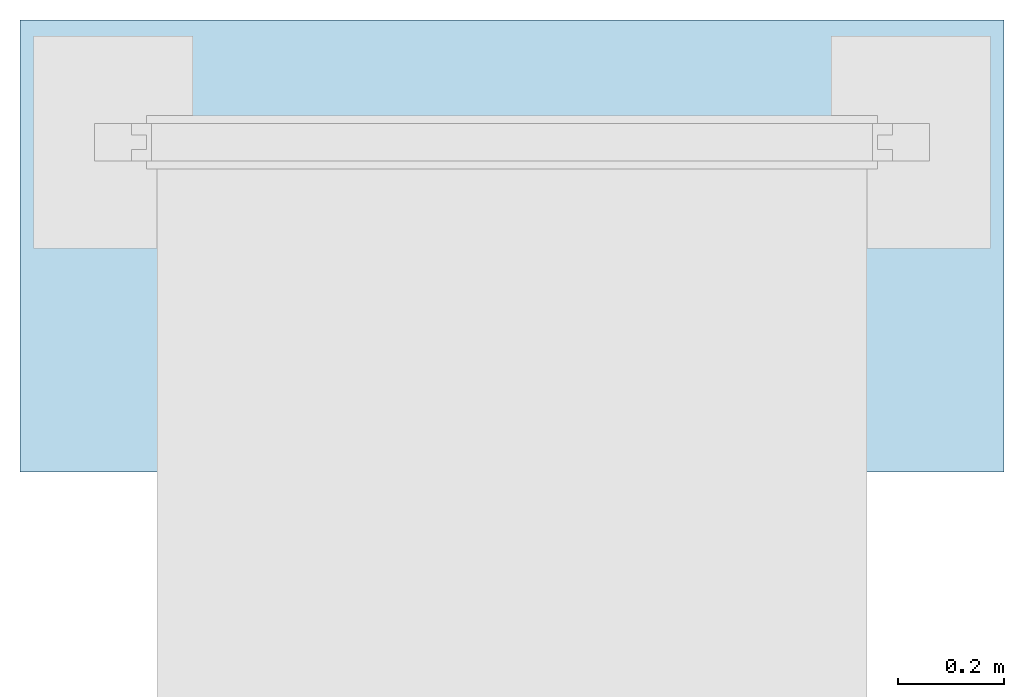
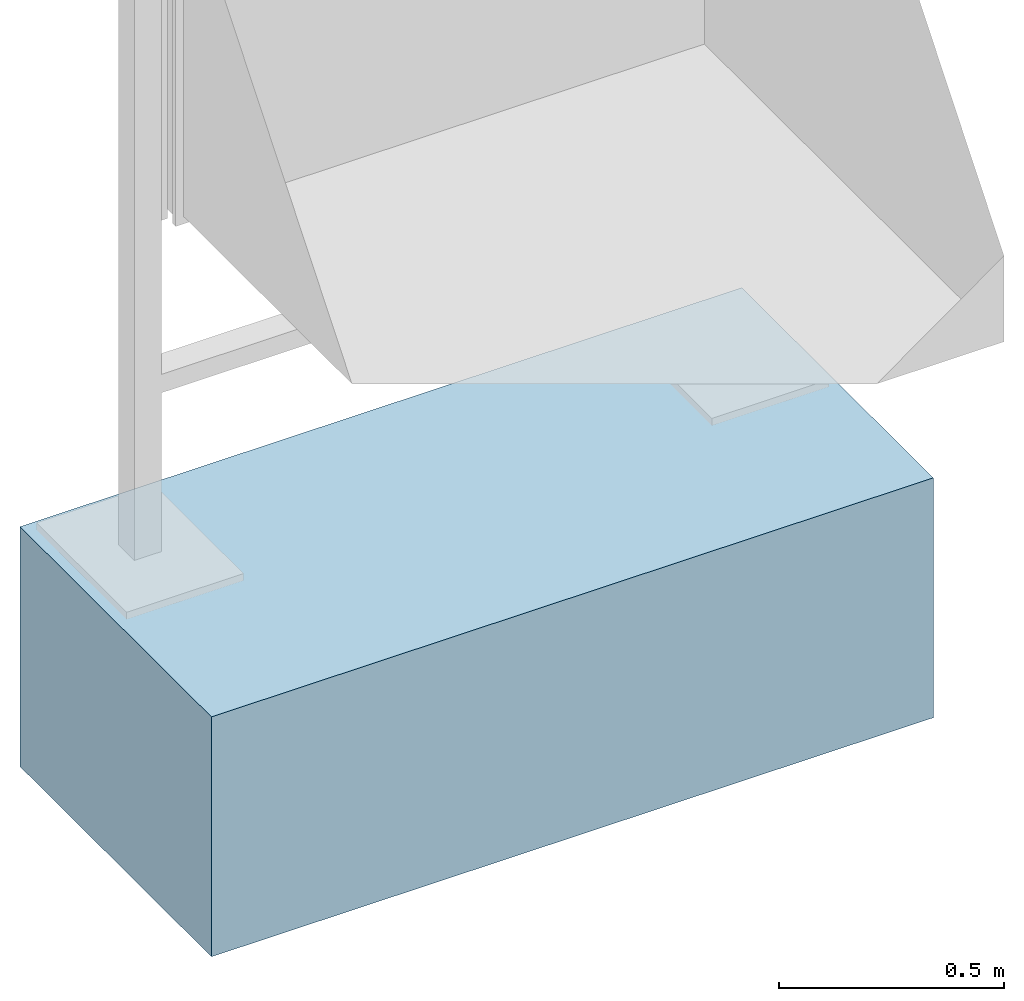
# One storey, incomplete: 1 slab.
"""IFC4 building model written with IfcOpenShell, lengths in metres."""

from ifc_helpers import new_model, entity, si_unit, converted_unit, direction, frame, frame_2d, origin, origin_2d_with_axis, place, context, subcontext, project, spatial, rectangle, extrude, material, type_object, element, save


model = new_model("IFC4")

# Units and contexts
model_context = context("Model", 3, precision=1e-05, world=origin(), true_north=direction((6.123031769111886e-17, 1.0)))
body_context = subcontext(model_context, "Body", "Model", "MODEL_VIEW")
ifc_project = project(units=[si_unit("LENGTHUNIT", "METRE"), converted_unit("PLANEANGLEUNIT", "DEGREE", entity("IfcPlaneAngleMeasure", 0.017453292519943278), si_unit("PLANEANGLEUNIT", "RADIAN"), dimensions=[0, 0, 0, 0, 0, 0, 0]), si_unit("AREAUNIT", "SQUARE_METRE")], contexts=[model_context])

# Site, building, storey
site_placement = place(None, origin())
site = spatial("IfcSite", under=ifc_project, at=site_placement, Name="Default", CompositionType="ELEMENT")
building_placement = place(site_placement, origin())
building = spatial("IfcBuilding", under=site, at=building_placement, CompositionType="ELEMENT")
storey_placement = place(building_placement, origin())
storey = spatial("IfcBuildingStorey", under=building, at=storey_placement, Name="Ebene 0", CompositionType="ELEMENT", Elevation=0.0)

# Slab
ifc_material = material(Name="DB_Magerbeton", Category="DB_Beton")
slab_type = type_object("IfcSlabType", Name="DB_Vitrine_Fundament_einfeldrig_Windlastzone_1_2:DB_Vitrine_Fundament_einfeldrig_Windlastzone_1_2", PredefinedType="BASESLAB", material=ifc_material)
slab_placement = place(storey_placement, origin())
element("IfcSlab", 1, at=slab_placement, inside=storey, type_object=slab_type, Name="DB_Vitrine_Fundament_einfeldrig_Windlastzone_1_2:DB_Vitrine_Fundament_einfeldrig_Windlastzone_1_2", ObjectType="DB_Vitrine_Fundament_einfeldrig_Windlastzone_1_2:DB_Vitrine_Fundament_einfeldrig_Windlastzone_1_2", PredefinedType="BASESLAB", context=body_context, shape_type="SweptSolid", body=[
    extrude(rectangle(XDim=0.8500000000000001, YDim=1.85, at=frame_2d((5.551115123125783e-17, 0.0), x_axis=(1.0, 0.0))), frame((0.7500000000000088, -0.19499999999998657, 0.0), z_axis=(0.0, 0.0, 1.0), x_axis=(0.0, -1.0, 0.0)), (0.0, 0.0, 1.0), 0.04999999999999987),
    extrude(rectangle(XDim=1.85, YDim=0.8500000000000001, at=origin_2d_with_axis()), frame((0.7500000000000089, -0.19499999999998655, 0.04999999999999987), z_axis=(0.0, 0.0, 1.0), x_axis=(-1.0, 0.0, 0.0)), (0.0, 0.0, 1.0), 0.5999999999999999),
])

save(model, "model.ifc")
